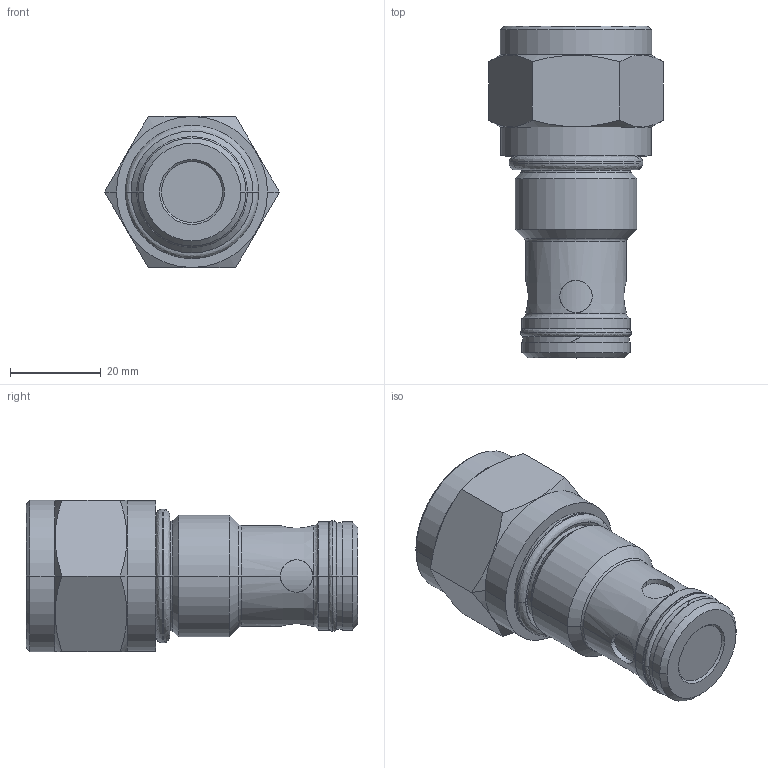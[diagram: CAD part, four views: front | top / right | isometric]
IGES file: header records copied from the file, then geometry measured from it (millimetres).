
Start section:  PTC IGES file: CVFP-12-_-_.igs
Global section: file name: CVFP-12-_-_.igs; native system: Creo Elements/Pro by Parametric Technology Corporation; preprocessor: 2015070; author: torrese; organization: Unknown; date: 20150903.092354; units: inch
Bounding box: 38.48 x 73.03 x 33.32 mm (x, y, z)
Volume: 46818.6 mm3; surface area: 8971.4 mm2
Topology: 1 solids, 1 shells, 88 faces, 186 edges, 108 vertices
Faces by surface type: revolution 71, bspline 17
